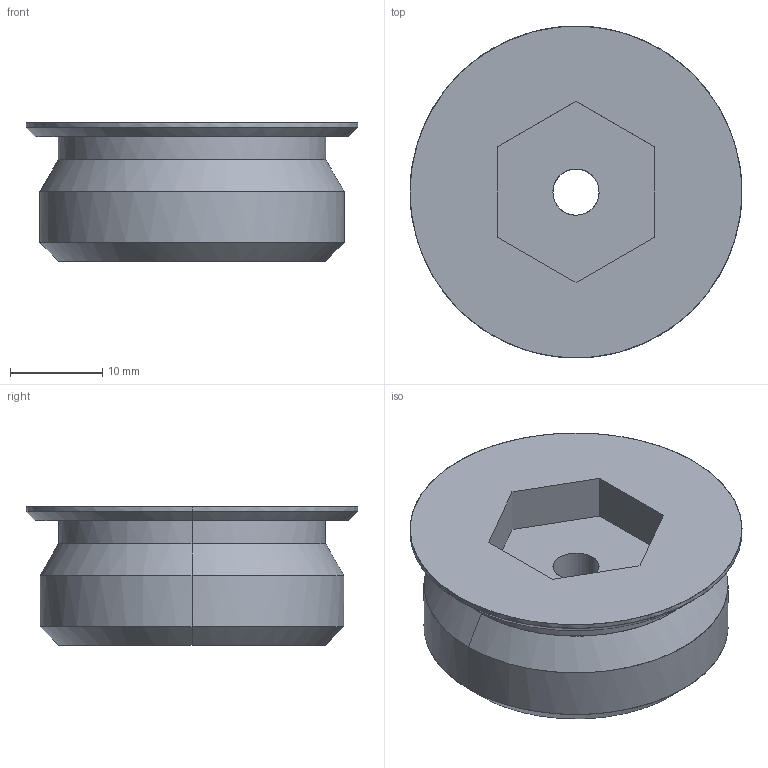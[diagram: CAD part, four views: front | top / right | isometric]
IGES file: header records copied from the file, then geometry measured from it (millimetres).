
Global section: file name: E:\UnigraphicsGraphicData\MISUMI_PRESS-PARTS\IGES\3d_mswzh33_00488_r00.igs; native system: NX V5.0; preprocessor: UGS NX IGES V5.0; author: MISUMI; date: 20110105.161529; units: millimetre
Bounding box: 36 x 36 x 15 mm (x, y, z)
Surface area: 4017.1 mm2 (no closed solid volume)
Topology: 0 solids, 0 shells, 24 faces, 172 edges, 172 vertices
Faces by surface type: bspline 24
